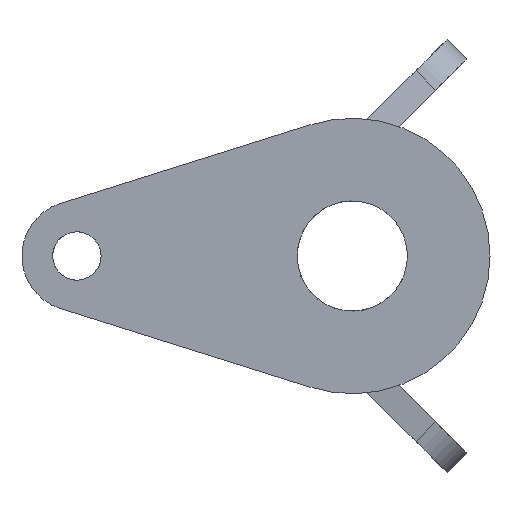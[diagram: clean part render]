
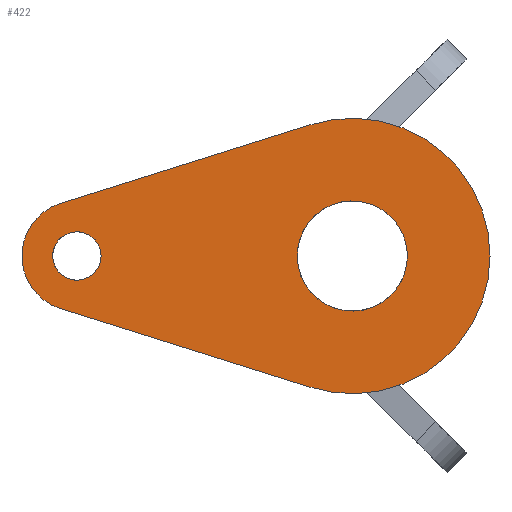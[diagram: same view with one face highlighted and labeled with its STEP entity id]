
A CAD part, front view. The second image highlights one B-rep face of the part: STEP entity #422.
In plain terms, the highlighted planar face has unit normal (0, -1, 0).
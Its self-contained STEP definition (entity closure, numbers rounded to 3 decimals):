
#327=CARTESIAN_POINT('Vertex',(-11.145,-50.8,6.089)) ;
#341=CARTESIAN_POINT('Vertex',(11.145,-50.8,-6.089)) ;
#344=CARTESIAN_POINT('Axis2P3D Location',(0.,-50.8,0.)) ;
#356=CARTESIAN_POINT('Axis2P3D Location',(0.,-50.8,0.)) ;
#361=CARTESIAN_POINT('Line Origine',(-38.418,-50.8,-21.201)) ;
#365=CARTESIAN_POINT('Vertex',(-9.525,-50.8,-30.288)) ;
#367=CARTESIAN_POINT('Vertex',(-67.31,-50.8,-12.115)) ;
#370=CARTESIAN_POINT('Axis2P3D Location',(0.,-50.8,0.)) ;
#374=CARTESIAN_POINT('Vertex',(-9.525,-50.8,30.288)) ;
#377=CARTESIAN_POINT('Line Origine',(-38.418,-50.8,21.201)) ;
#381=CARTESIAN_POINT('Vertex',(-67.31,-50.8,12.115)) ;
#384=CARTESIAN_POINT('Axis2P3D Location',(-63.5,-50.8,0.)) ;
#395=CARTESIAN_POINT('Axis2P3D Location',(0.,-50.8,0.)) ;
#404=CARTESIAN_POINT('Axis2P3D Location',(-63.5,-50.8,0.)) ;
#408=CARTESIAN_POINT('Vertex',(-68.404,-50.8,2.679)) ;
#410=CARTESIAN_POINT('Vertex',(-58.596,-50.8,-2.679)) ;
#413=CARTESIAN_POINT('Axis2P3D Location',(-63.5,-50.8,0.)) ;
#345=DIRECTION('Axis2P3D Direction',(-0.,1.,0.)) ;
#357=DIRECTION('Axis2P3D Direction',(0.,1.,-0.)) ;
#358=DIRECTION('Axis2P3D XDirection',(-1.,0.,0.)) ;
#362=DIRECTION('Vector Direction',(0.954,0.,-0.3)) ;
#371=DIRECTION('Axis2P3D Direction',(0.,1.,-0.)) ;
#378=DIRECTION('Vector Direction',(-0.954,0.,-0.3)) ;
#385=DIRECTION('Axis2P3D Direction',(0.,1.,-0.)) ;
#396=DIRECTION('Axis2P3D Direction',(0.,1.,-0.)) ;
#405=DIRECTION('Axis2P3D Direction',(0.,1.,-0.)) ;
#414=DIRECTION('Axis2P3D Direction',(0.,1.,-0.)) ;
#346=AXIS2_PLACEMENT_3D('Circle Axis2P3D',#344,#345,$) ;
#359=AXIS2_PLACEMENT_3D('Plane Axis2P3D',#356,#357,#358) ;
#372=AXIS2_PLACEMENT_3D('Circle Axis2P3D',#370,#371,$) ;
#386=AXIS2_PLACEMENT_3D('Circle Axis2P3D',#384,#385,$) ;
#397=AXIS2_PLACEMENT_3D('Circle Axis2P3D',#395,#396,$) ;
#406=AXIS2_PLACEMENT_3D('Circle Axis2P3D',#404,#405,$) ;
#415=AXIS2_PLACEMENT_3D('Circle Axis2P3D',#413,#414,$) ;
#390=ORIENTED_EDGE('',*,*,#369,.F.) ;
#391=ORIENTED_EDGE('',*,*,#376,.F.) ;
#392=ORIENTED_EDGE('',*,*,#383,.F.) ;
#393=ORIENTED_EDGE('',*,*,#388,.F.) ;
#401=ORIENTED_EDGE('',*,*,#348,.T.) ;
#402=ORIENTED_EDGE('',*,*,#399,.T.) ;
#419=ORIENTED_EDGE('',*,*,#412,.T.) ;
#420=ORIENTED_EDGE('',*,*,#417,.T.) ;
#403=FACE_BOUND('',#400,.T.) ;
#421=FACE_BOUND('',#418,.T.) ;
#363=VECTOR('Line Direction',#362,1.) ;
#379=VECTOR('Line Direction',#378,1.) ;
#422=ADVANCED_FACE('PartBody',(#394,#403,#421),#360,.F.) ;
#347=CIRCLE('generated circle',#346,12.7) ;
#373=CIRCLE('generated circle',#372,31.75) ;
#387=CIRCLE('generated circle',#386,12.7) ;
#398=CIRCLE('generated circle',#397,12.7) ;
#407=CIRCLE('generated circle',#406,5.588) ;
#416=CIRCLE('generated circle',#415,5.588) ;
#348=EDGE_CURVE('',#328,#342,#347,.T.) ;
#369=EDGE_CURVE('',#366,#368,#364,.F.) ;
#376=EDGE_CURVE('',#375,#366,#373,.T.) ;
#383=EDGE_CURVE('',#382,#375,#380,.F.) ;
#388=EDGE_CURVE('',#368,#382,#387,.T.) ;
#399=EDGE_CURVE('',#342,#328,#398,.T.) ;
#412=EDGE_CURVE('',#409,#411,#407,.T.) ;
#417=EDGE_CURVE('',#411,#409,#416,.T.) ;
#389=EDGE_LOOP('',(#390,#391,#392,#393)) ;
#400=EDGE_LOOP('',(#401,#402)) ;
#418=EDGE_LOOP('',(#419,#420)) ;
#394=FACE_OUTER_BOUND('',#389,.T.) ;
#364=LINE('Line',#361,#363) ;
#380=LINE('Line',#377,#379) ;
#360=PLANE('Plane',#359) ;
#328=VERTEX_POINT('',#327) ;
#342=VERTEX_POINT('',#341) ;
#366=VERTEX_POINT('',#365) ;
#368=VERTEX_POINT('',#367) ;
#375=VERTEX_POINT('',#374) ;
#382=VERTEX_POINT('',#381) ;
#409=VERTEX_POINT('',#408) ;
#411=VERTEX_POINT('',#410) ;
